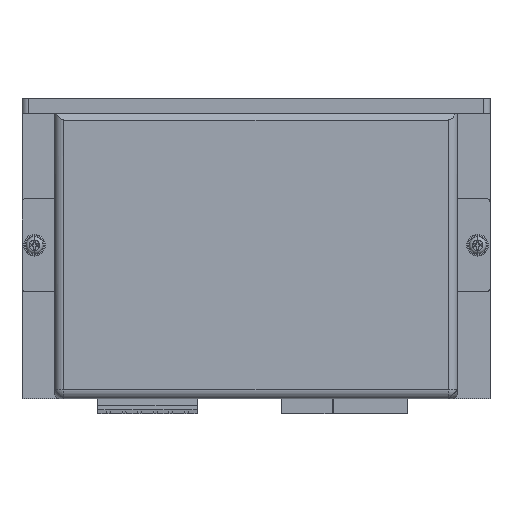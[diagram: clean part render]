
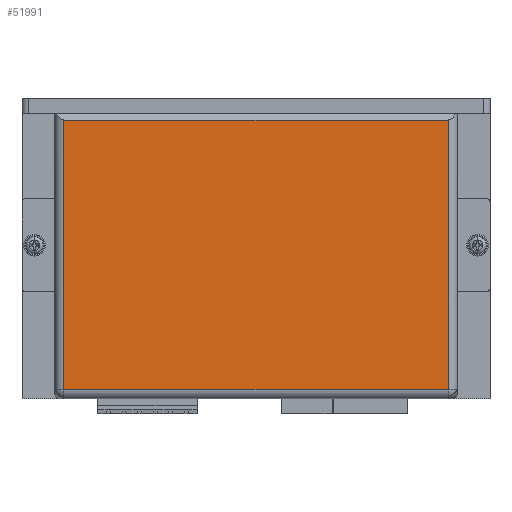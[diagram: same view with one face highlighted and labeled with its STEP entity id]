
A CAD part, front view. The second image highlights one B-rep face of the part: STEP entity #51991.
In plain terms, the highlighted planar face has unit normal (0, -1, 0).
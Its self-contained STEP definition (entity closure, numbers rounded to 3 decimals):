
#48717=DIRECTION('',(0.,0.,1.));
#48718=VECTOR('',#48717,87.);
#48719=CARTESIAN_POINT('',(62.,-16.,-43.));
#48720=LINE('',#48719,#48718);
#48721=DIRECTION('',(-1.,0.,0.));
#48722=VECTOR('',#48721,124.);
#48723=CARTESIAN_POINT('',(62.,-16.,44.));
#48724=LINE('',#48723,#48722);
#48725=DIRECTION('',(1.,0.,0.));
#48726=VECTOR('',#48725,124.);
#48727=CARTESIAN_POINT('',(-62.,-16.,-43.));
#48728=LINE('',#48727,#48726);
#48957=DIRECTION('',(0.,0.,-1.));
#48958=VECTOR('',#48957,87.);
#48959=CARTESIAN_POINT('',(-62.,-16.,44.));
#48960=LINE('',#48959,#48958);
#51339=CARTESIAN_POINT('',(-62.,-16.,-43.));
#51340=CARTESIAN_POINT('',(62.,-16.,-43.));
#51341=VERTEX_POINT('',#51339);
#51342=VERTEX_POINT('',#51340);
#51343=CARTESIAN_POINT('',(62.,-16.,44.));
#51344=CARTESIAN_POINT('',(-62.,-16.,44.));
#51345=VERTEX_POINT('',#51343);
#51346=VERTEX_POINT('',#51344);
#51978=CARTESIAN_POINT('',(0.,-16.,0.));
#51979=DIRECTION('',(0.,1.,0.));
#51980=DIRECTION('',(1.,0.,0.));
#51981=AXIS2_PLACEMENT_3D('',#51978,#51979,#51980);
#51982=PLANE('',#51981);
#51983=ORIENTED_EDGE('',*,*,#51970,.F.);
#51984=ORIENTED_EDGE('',*,*,#51959,.F.);
#51986=ORIENTED_EDGE('',*,*,#51985,.F.);
#51988=ORIENTED_EDGE('',*,*,#51987,.F.);
#51989=EDGE_LOOP('',(#51983,#51984,#51986,#51988));
#51990=FACE_OUTER_BOUND('',#51989,.F.);
#51991=ADVANCED_FACE('',(#51990),#51982,.F.);
#51959=EDGE_CURVE('',#51342,#51345,#48720,.T.);
#51970=EDGE_CURVE('',#51345,#51346,#48724,.T.);
#51985=EDGE_CURVE('',#51341,#51342,#48728,.T.);
#51987=EDGE_CURVE('',#51346,#51341,#48960,.T.);
